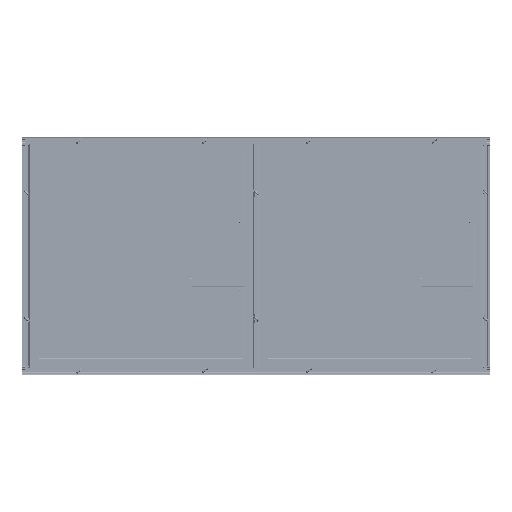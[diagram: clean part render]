
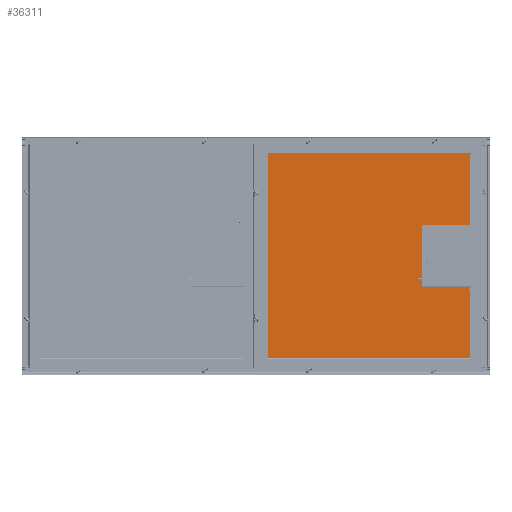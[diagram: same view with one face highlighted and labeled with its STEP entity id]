
A CAD part, top view. The second image highlights one B-rep face of the part: STEP entity #36311.
In plain terms, the highlighted planar face has unit normal (0, 0, 1) as drawn and (0, 0, -1) by its records, which use the part's own axes.
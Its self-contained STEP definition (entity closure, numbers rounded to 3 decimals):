
#7428 = PLANE ( 'NONE',  #14043 ) ;
#8722 = LINE ( 'NONE', #102387, #143723 ) ;
#14043 = AXIS2_PLACEMENT_3D ( 'NONE', #88849, #128214, #32026 ) ;
#14778 = CARTESIAN_POINT ( 'NONE',  ( 351.186, 49.52, -150. ) ) ;
#18966 = DIRECTION ( 'NONE',  ( 1., 0., 0. ) ) ;
#19482 = ORIENTED_EDGE ( 'NONE', *, *, #126509, .T. ) ;
#21566 = DIRECTION ( 'NONE',  ( -1., 0., 0. ) ) ;
#32026 = DIRECTION ( 'NONE',  ( -1., 0., 0. ) ) ;
#36311 = ADVANCED_FACE ( 'NONE', ( #115925 ), #7428, .T. ) ;
#42985 = DIRECTION ( 'NONE',  ( 0., -1., 0. ) ) ;
#47404 = VERTEX_POINT ( 'NONE', #87675 ) ;
#48165 = DIRECTION ( 'NONE',  ( 0., 1., 0. ) ) ;
#50204 = VERTEX_POINT ( 'NONE', #167253 ) ;
#57849 = ORIENTED_EDGE ( 'NONE', *, *, #129597, .T. ) ;
#87675 = CARTESIAN_POINT ( 'NONE',  ( -839.414, 49.52, -150. ) ) ;
#88849 = CARTESIAN_POINT ( 'NONE',  ( 0., 0., -150. ) ) ;
#92909 = LINE ( 'NONE', #162805, #102691 ) ;
#97450 = EDGE_CURVE ( 'NONE', #142242, #47404, #167637, .T. ) ;
#97732 = CARTESIAN_POINT ( 'NONE',  ( 351.186, 1228.12, -150. ) ) ;
#102387 = CARTESIAN_POINT ( 'NONE',  ( -839.414, 1228.12, -150. ) ) ;
#102691 = VECTOR ( 'NONE', #42985, 1000. ) ;
#114626 = ORIENTED_EDGE ( 'NONE', *, *, #147992, .T. ) ;
#115925 = FACE_OUTER_BOUND ( 'NONE', #146594, .T. ) ;
#126509 = EDGE_CURVE ( 'NONE', #50204, #172759, #126559, .T. ) ;
#126559 = LINE ( 'NONE', #97732, #172561 ) ;
#128214 = DIRECTION ( 'NONE',  ( 0., 0., -1. ) ) ;
#129597 = EDGE_CURVE ( 'NONE', #47404, #50204, #8722, .T. ) ;
#142242 = VERTEX_POINT ( 'NONE', #14778 ) ;
#143723 = VECTOR ( 'NONE', #48165, 1000. ) ;
#146594 = EDGE_LOOP ( 'NONE', ( #114626, #167079, #57849, #19482 ) ) ;
#147992 = EDGE_CURVE ( 'NONE', #172759, #142242, #92909, .T. ) ;
#154544 = CARTESIAN_POINT ( 'NONE',  ( 351.186, 49.52, -150. ) ) ;
#162805 = CARTESIAN_POINT ( 'NONE',  ( 351.186, 1228.12, -150. ) ) ;
#165500 = CARTESIAN_POINT ( 'NONE',  ( 351.186, 1228.12, -150. ) ) ;
#167079 = ORIENTED_EDGE ( 'NONE', *, *, #97450, .T. ) ;
#167253 = CARTESIAN_POINT ( 'NONE',  ( -839.414, 1228.12, -150. ) ) ;
#167637 = LINE ( 'NONE', #154544, #169394 ) ;
#169394 = VECTOR ( 'NONE', #21566, 1000. ) ;
#172561 = VECTOR ( 'NONE', #18966, 1000. ) ;
#172759 = VERTEX_POINT ( 'NONE', #165500 ) ;
